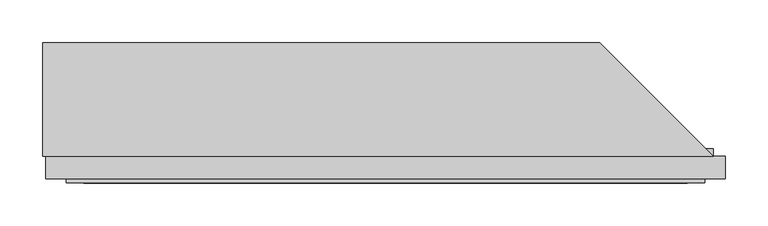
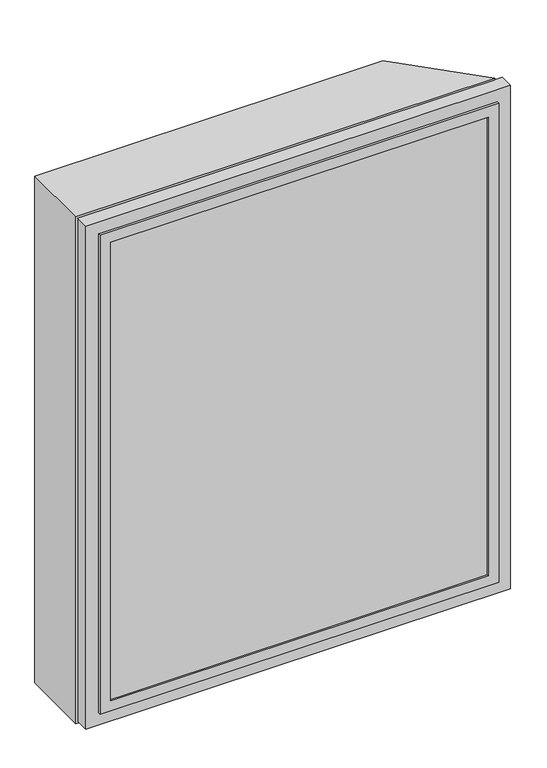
"""IFC4 building model written with IfcOpenShell, lengths in millimetres: plate geometry, SCISSOR PANEL : SCISSOR PANEL."""

import ifcopenshell
import ifcopenshell.guid

model = None  # the IFC model being written
_history = None  # IfcOwnerHistory: only IFC2X3 demands one
_inside = {}  # id of a spatial element -> (the spatial element, [elements in it])
_under = {}  # id of a project, library or spatial element -> (it, [spatial elements below it])
_declared = {}  # id of a project -> (the project, [libraries it declares])
_typed = {}  # id of a type object -> (the type object, [elements of that type])
_made_of = {}  # id of a material, layer set ... -> (it, [elements and type objects made of it])


def new_model(schema):
    """Start an empty IFC model of exactly this schema.

    Asked for "IFC4X3", IfcOpenShell would pick the latest addendum, in which some entities
    have other attributes; the version numbers below select the first issue.
    IFC2X3 requires an IfcOwnerHistory on every rooted entity: one is made here for all.
    """
    global model, _history
    if schema == "IFC4X3":
        model = ifcopenshell.file(schema_version=(4, 3, 0, 0))
    else:
        model = ifcopenshell.file(schema=schema)
    _inside.clear()
    _under.clear()
    _declared.clear()
    _typed.clear()
    _made_of.clear()
    _history = None
    if model.schema == "IFC2X3":
        org = make("IfcOrganization", Name="unknown")
        user = make(
            "IfcPersonAndOrganization",
            ThePerson=make("IfcPerson", FamilyName="unknown"),
            TheOrganization=org,
        )
        app = make(
            "IfcApplication",
            ApplicationDeveloper=org,
            Version="unknown",
            ApplicationFullName="unknown",
            ApplicationIdentifier="unknown",
        )
        _history = make(
            "IfcOwnerHistory",
            OwningUser=user,
            OwningApplication=app,
            ChangeAction="ADDED",
            CreationDate=0,
        )
    return model


def make(cls, **values):
    """One entity of the class cls with the attributes given. An attribute that is None is left unset."""
    return model.create_entity(
        cls, **{name: value for name, value in values.items() if value is not None}
    )


def rooted(cls, **values):
    """An entity with a GlobalId (a new one), such as an element, a storey or a relation."""
    return make(cls, GlobalId=ifcopenshell.guid.new(), OwnerHistory=_history, **values)


def si_unit(unit_type, name, prefix=None):
    """IfcSIUnit, for example si_unit("LENGTHUNIT", "METRE", prefix="MILLI")."""
    return make("IfcSIUnit", UnitType=unit_type, Prefix=prefix, Name=name)


def assignment(units):
    """IfcUnitAssignment: the units of a project."""
    return None if units is None else make("IfcUnitAssignment", Units=units)


def point(xyz):
    """IfcCartesianPoint."""
    return None if xyz is None else make("IfcCartesianPoint", Coordinates=xyz)


def direction(xyz):
    """IfcDirection."""
    return None if xyz is None else make("IfcDirection", DirectionRatios=xyz)


def frame(location, z_axis=None, x_axis=None):
    """IfcAxis2Placement3D, a coordinate frame: its origin and axes. An axis left out is left unset."""
    return make(
        "IfcAxis2Placement3D",
        Location=point(location),
        Axis=direction(z_axis),
        RefDirection=direction(x_axis),
    )


def origin():
    """The frame at (0, 0, 0) with its axes left unset."""
    return frame((0.0, 0.0, 0.0))


def place(relative_to, where):
    """IfcLocalPlacement: puts the frame where relative to a parent placement (None: the world)."""
    return make(
        "IfcLocalPlacement", PlacementRelTo=relative_to, RelativePlacement=where
    )


def context(
    kind, dimensions, precision=None, world=None, true_north=None, identifier=None
):
    """IfcGeometricRepresentationContext, for example the 3D "Model" context."""
    return make(
        "IfcGeometricRepresentationContext",
        ContextIdentifier=identifier,
        ContextType=kind,
        CoordinateSpaceDimension=dimensions,
        Precision=precision,
        WorldCoordinateSystem=world,
        TrueNorth=true_north,
    )


def project(units=None, contexts=None):
    """IfcProject with its units and contexts."""
    return rooted(
        "IfcProject",
        Name="project",
        RepresentationContexts=contexts,
        UnitsInContext=assignment(units),
    )


def spatial(cls, under=None, at=None, **own):
    """A site, building, storey or space (cls), placed at a placement, below another one or the project."""
    s = rooted(cls, ObjectPlacement=at, **own)
    if under is not None:
        _under.setdefault(under.id(), (under, []))[1].append(s)
    return s


def polyline(points):
    """IfcPolyline through the points."""
    return make("IfcPolyline", Points=[point(p) for p in points])


def outline(outer, holes=None, kind="AREA"):
    """IfcArbitraryClosedProfileDef: a profile drawn as a closed curve; with holes, ...WithVoids."""
    if holes is None:
        return make("IfcArbitraryClosedProfileDef", ProfileType=kind, OuterCurve=outer)
    return make(
        "IfcArbitraryProfileDefWithVoids",
        ProfileType=kind,
        OuterCurve=outer,
        InnerCurves=holes,
    )


def extrude(swept, where, along, depth):
    """IfcExtrudedAreaSolid: the profile swept, set in the frame where, extruded along a direction by depth."""
    return make(
        "IfcExtrudedAreaSolid",
        SweptArea=swept,
        Position=where,
        ExtrudedDirection=direction(along),
        Depth=depth,
    )


def faces_of(points, faces, orient=None, outer=None):
    """IfcFace entities. A face is a list of loops; a loop is a list of indices into points, from 0.

    orient and outer hold one flag for each loop. By default every Orientation is true, the
    first loop of a face is its IfcFaceOuterBound and the others are IfcFaceBound.
    """
    made = []
    for i, loops in enumerate(faces):
        bounds = []
        for j, loop in enumerate(loops):
            is_outer = j == 0 if outer is None else outer[i][j]
            bounds.append(
                make(
                    "IfcFaceOuterBound" if is_outer else "IfcFaceBound",
                    Bound=make("IfcPolyLoop", Polygon=[points[k] for k in loop]),
                    Orientation=True if orient is None else orient[i][j],
                )
            )
        made.append(make("IfcFace", Bounds=bounds))
    return made


def faceted_brep(points, faces, orient=None, outer=None, voids=None):
    """IfcFacetedBrep: a solid bounded by flat faces; with voids (closed shells), ...WithVoids."""
    shared = [point(p) for p in points]
    hull = make("IfcClosedShell", CfsFaces=faces_of(shared, faces, orient, outer))
    if voids is None:
        return make("IfcFacetedBrep", Outer=hull)
    return make(
        "IfcFacetedBrepWithVoids",
        Outer=hull,
        Voids=[
            make(cls, CfsFaces=faces_of(shared, fs, o, b)) for cls, fs, o, b in voids
        ],
    )


def shape(context_of_items, identifier, shape_type, items):
    """IfcShapeRepresentation: the items that make up one representation, for example the "Body"."""
    return make(
        "IfcShapeRepresentation",
        ContextOfItems=context_of_items,
        RepresentationIdentifier=identifier,
        RepresentationType=shape_type,
        Items=items,
    )


def source(mapping_origin, context_of_items, identifier, shape_type, items):
    """IfcRepresentationMap: a shape defined once, which mapped items show again and again."""
    return make(
        "IfcRepresentationMap",
        MappingOrigin=mapping_origin,
        MappedRepresentation=shape(context_of_items, identifier, shape_type, items),
    )


def transform(
    local_origin,
    x_axis=None,
    y_axis=None,
    z_axis=None,
    scale=None,
    scale2=None,
    scale3=None,
    uniform=True,
):
    """IfcCartesianTransformationOperator3D, or its non-uniform kind. x_axis, y_axis, z_axis: its Axis1, 2, 3."""
    if uniform:
        return make(
            "IfcCartesianTransformationOperator3D",
            Axis1=direction(x_axis),
            Axis2=direction(y_axis),
            LocalOrigin=point(local_origin),
            Scale=scale,
            Axis3=direction(z_axis),
        )
    return make(
        "IfcCartesianTransformationOperator3DnonUniform",
        Axis1=direction(x_axis),
        Axis2=direction(y_axis),
        LocalOrigin=point(local_origin),
        Scale=scale,
        Axis3=direction(z_axis),
        Scale2=scale2,
        Scale3=scale3,
    )


def mapped(mapping_source, mapping_target):
    """IfcMappedItem: shows the shape of a source again, moved by a transform."""
    return make(
        "IfcMappedItem", MappingSource=mapping_source, MappingTarget=mapping_target
    )


def made_of(thing, what):
    """Note that an element or type object is made of a material, layer set ...; save() writes the relation."""
    if what is not None:
        _made_of.setdefault(what.id(), (what, []))[1].append(thing)
    return thing


def element(
    cls,
    number,
    at=None,
    inside=None,
    cuts=None,
    type_object=None,
    material=None,
    context=None,
    identifier="Body",
    shape_type=None,
    held_by="IfcProductDefinitionShape",
    body=None,
    shapes=None,
    **own,
):
    """One element of the class cls, such as IfcWall. Its Tag is "e" and its number.

    at: its placement. inside: the storey or other place that contains it. cuts: it is an
    opening in that element (IfcRelVoidsElement). A single representation is given by context,
    identifier, shape_type and body (its items); several are given by shapes. held_by: the class
    of the entity that holds the representations. save() writes the other relations.
    """
    e = rooted(cls, Tag="e%d" % number, ObjectPlacement=at, **own)
    if body is not None:
        shapes = [shape(context, identifier, shape_type, body)]
    if shapes is not None:
        e.Representation = make(held_by, Representations=shapes)
    if inside is not None:
        _inside.setdefault(inside.id(), (inside, []))[1].append(e)
    if cuts is not None:
        rooted(
            "IfcRelVoidsElement", RelatingBuildingElement=cuts, RelatedOpeningElement=e
        )
    if type_object is not None:
        _typed.setdefault(type_object.id(), (type_object, []))[1].append(e)
    return made_of(e, material)


def aggregate(whole, parts):
    """IfcRelAggregates: a whole, such as a stair, and the parts it consists of."""
    return rooted("IfcRelAggregates", RelatingObject=whole, RelatedObjects=parts)


def save(model, path):
    """Write the relations noted so far, then the file.

    IfcRelAggregates (storeys below a building ...), IfcRelContainedInSpatialStructure (elements
    in a storey), IfcRelDefinesByType, IfcRelAssociatesMaterial and IfcRelDeclares: one each for
    every whole, place, type object, material and project.
    """
    for whole, parts in _under.values():
        aggregate(whole, parts)
    for where, things in _inside.values():
        rooted(
            "IfcRelContainedInSpatialStructure",
            RelatedElements=things,
            RelatingStructure=where,
        )
    for kind, things in _typed.values():
        rooted("IfcRelDefinesByType", RelatedObjects=things, RelatingType=kind)
    for what, things in _made_of.values():
        rooted("IfcRelAssociatesMaterial", RelatedObjects=things, RelatingMaterial=what)
    for by, libraries in _declared.values():
        rooted("IfcRelDeclares", RelatingContext=by, RelatedDefinitions=libraries)
    model.write(path)


def plate_4ac96981(model_context):
    return source(origin(), model_context, "Body", "SolidModel", [
        faceted_brep([(-400.0, -132.5, 0.0), (382.5, -132.5, 0.0), (382.5, -132.5, 17.5), (-382.5, -132.5, 17.5), (-382.5, -132.5, 982.5), (382.5, -132.5, 982.5), (382.5, -132.5, 1000.0), (-400.0, -132.5, 1000.0), (-382.5, 0.0, 982.5), (-382.5, 0.0, 17.5), (250.0, 0.0, 1000.0), (250.0, 0.0, 982.5), (250.0, 0.0, 17.5), (250.0, 0.0, 0.0), (-400.0, 0.0, 1000.0), (-400.0, 0.0, 0.0)], [[[0, 1, 2, 3, 4, 5, 6, 7]], [[8, 4, 3, 9]], [[10, 6, 5, 11]], [[12, 2, 1, 13]], [[14, 10, 11, 8, 9, 12, 13, 15]], [[15, 0, 7, 14]], [[15, 13, 1, 0]], [[7, 6, 10, 14]], [[4, 8, 11, 5]], [[2, 12, 9, 3]]]),
        extrude(outline(polyline([(-369.5, -160.5), (-369.5, -135.5), (369.5, -135.5), (369.5, -160.5), (-369.5, -160.5)])), frame((0.0, 0.0, 30.5), z_axis=(0.0, 0.0, 1.0), x_axis=(1.0, 0.0, 0.0)), (0.0, 0.0, 1.0), 939.0),
        faceted_brep([(-352.5, -135.5, 952.5), (-352.5, -135.5, 47.5), (-352.5, -132.5, 47.5), (-352.5, -132.5, 952.5), (-369.5, -160.5, 969.5), (-369.5, -160.5, 30.5), (-369.5, -135.5, 30.5), (-369.5, -135.5, 969.5), (-352.5, -163.5, 952.5), (-352.5, -163.5, 47.5), (-352.5, -160.5, 47.5), (-352.5, -160.5, 952.5), (-372.5, -132.5, 972.5), (-372.5, -132.5, 27.5), (-372.5, -163.5, 27.5), (-372.5, -163.5, 972.5), (352.5, -135.5, 47.5), (352.5, -132.5, 47.5), (369.5, -160.5, 30.5), (369.5, -135.5, 30.5), (352.5, -163.5, 47.5), (352.5, -160.5, 47.5), (372.5, -132.5, 27.5), (372.5, -163.5, 27.5), (352.5, -135.5, 952.5), (352.5, -132.5, 952.5), (369.5, -160.5, 969.5), (369.5, -135.5, 969.5), (352.5, -163.5, 952.5), (352.5, -160.5, 952.5), (372.5, -132.5, 972.5), (372.5, -163.5, 972.5)], [[[0, 1, 2, 3]], [[4, 5, 6, 7]], [[8, 9, 10, 11]], [[12, 13, 14, 15]], [[1, 16, 17, 2]], [[5, 18, 19, 6]], [[9, 20, 21, 10]], [[13, 22, 23, 14]], [[16, 24, 25, 17]], [[18, 26, 27, 19]], [[20, 28, 29, 21]], [[22, 30, 31, 23]], [[13, 12, 30, 22], [3, 2, 17, 25]], [[24, 0, 3, 25]], [[7, 6, 19, 27], [1, 0, 24, 16]], [[26, 4, 7, 27]], [[5, 4, 26, 18], [11, 10, 21, 29]], [[28, 8, 11, 29]], [[15, 14, 23, 31], [9, 8, 28, 20]], [[30, 12, 15, 31]]]),
        faceted_brep([(-396.5, -132.5, 996.5), (-396.5, -132.5, 3.5), (-396.5, -158.75, 3.5), (-396.5, -158.75, 996.5), (-389.5, -150.0, 989.5), (-389.5, -150.0, 10.5), (-389.5, -132.5, 10.5), (-389.5, -132.5, 989.5), (-382.5, -123.75, 982.5), (-382.5, -123.75, 17.5), (-382.5, -150.0, 17.5), (-382.5, -150.0, 982.5), (-372.5, -158.75, 972.5), (-372.5, -158.75, 27.5), (-372.5, -123.75, 27.5), (-372.5, -123.75, 972.5), (396.5, -132.5, 3.5), (396.5, -158.75, 3.5), (389.5, -150.0, 10.5), (389.5, -132.5, 10.5), (382.5, -123.75, 17.5), (382.5, -150.0, 17.5), (372.5, -158.75, 27.5), (372.5, -123.75, 27.5), (396.5, -132.5, 996.5), (396.5, -158.75, 996.5), (389.5, -150.0, 989.5), (389.5, -132.5, 989.5), (382.5, -123.75, 982.5), (382.5, -150.0, 982.5), (372.5, -158.75, 972.5), (372.5, -123.75, 972.5)], [[[0, 1, 2, 3]], [[4, 5, 6, 7]], [[8, 9, 10, 11]], [[12, 13, 14, 15]], [[1, 16, 17, 2]], [[5, 18, 19, 6]], [[9, 20, 21, 10]], [[13, 22, 23, 14]], [[16, 24, 25, 17]], [[18, 26, 27, 19]], [[20, 28, 29, 21]], [[22, 30, 31, 23]], [[24, 0, 3, 25]], [[1, 0, 24, 16], [7, 6, 19, 27]], [[26, 4, 7, 27]], [[5, 4, 26, 18], [11, 10, 21, 29]], [[28, 8, 11, 29]], [[9, 8, 28, 20], [15, 14, 23, 31]], [[30, 12, 15, 31]], [[3, 2, 17, 25], [13, 12, 30, 22]]]),
        extrude(outline(polyline([(989.5, -389.5), (10.5, -389.5), (10.5, 389.5), (989.5, 389.5), (989.5, -389.5)]), holes=[polyline([(982.5, -382.5), (982.5, 382.5), (17.5, 382.5), (17.5, -382.5), (982.5, -382.5)])]), frame((0.0, -150.0, 0.0), z_axis=(0.0, 1.0, 0.0), x_axis=(0.0, 0.0, 1.0)), (0.0, 0.0, 1.0), 17.5),
    ])


if __name__ == "__main__":
    model = new_model("IFC4")
    model_context = context("Model", 3, world=origin())
    ifc_project = project(units=[si_unit("LENGTHUNIT", "METRE", prefix="MILLI")], contexts=[model_context])
    site = spatial("IfcSite", under=ifc_project)
    building = spatial("IfcBuilding", under=site)
    placement = place(None, origin())
    plate_shape = plate_4ac96981(model_context)
    element("IfcPlate", 1, ObjectType="SCISSOR PANEL : SCISSOR PANEL", at=placement, inside=building, context=model_context, shape_type="MappedRepresentation", body=[
        mapped(plate_shape, transform((0.0, 0.0, 0.0), x_axis=(1.0, 0.0, 0.0), y_axis=(0.0, 1.0, 0.0), z_axis=(0.0, 0.0, 1.0))),
    ])
    save(model, "model.ifc")
